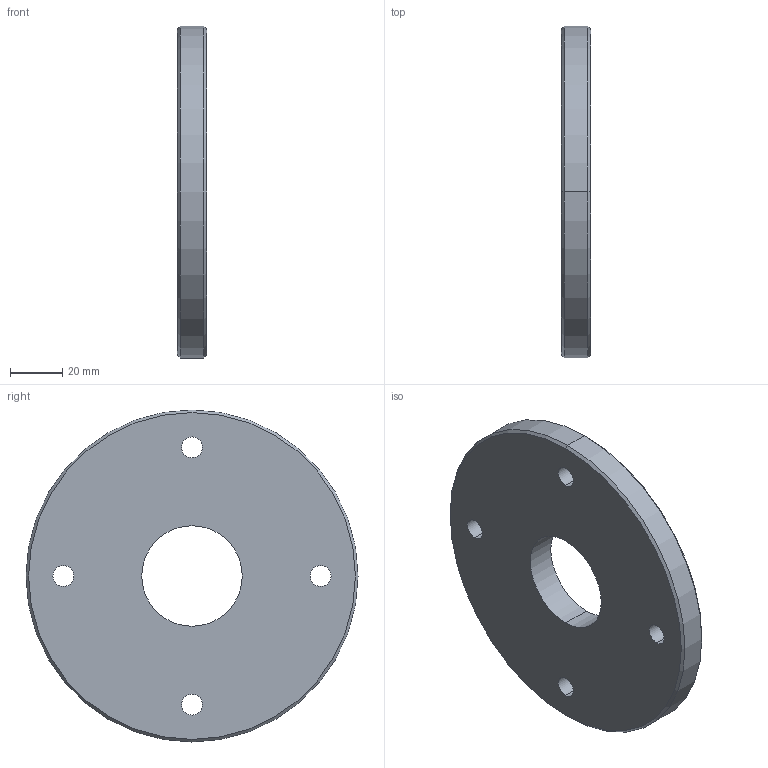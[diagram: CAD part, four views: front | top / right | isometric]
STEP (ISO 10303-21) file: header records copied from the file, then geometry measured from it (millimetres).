
FILE_DESCRIPTION (( 'STEP AP214' ), '1' );
FILE_NAME ('E38SL-6L1.5.STEP', '2016-05-23T04:39:34', ( 'eran' ), ( '' ), 'SwSTEP 2.0', 'SolidWorks 2016', '' );
FILE_SCHEMA (( 'AUTOMOTIVE_DESIGN' ));
Length unit declared in the file: millimetre
Products named in the file (1): E38SL-6L1.5
Bounding box: 11.1 x 127 x 127 mm (x, y, z)
Volume: 125127.6 mm3; surface area: 29030.6 mm2
Topology: 1 solids, 1 shells, 18 faces, 44 edges, 28 vertices
Faces by surface type: cylinder 12, cone 4, plane 2
Entity records: 598 total; most frequent: DIRECTION 110, CARTESIAN_POINT 91, ORIENTED_EDGE 88, AXIS2_PLACEMENT_3D 47, EDGE_CURVE 44, EDGE_LOOP 28, CIRCLE 28, VERTEX_POINT 28
